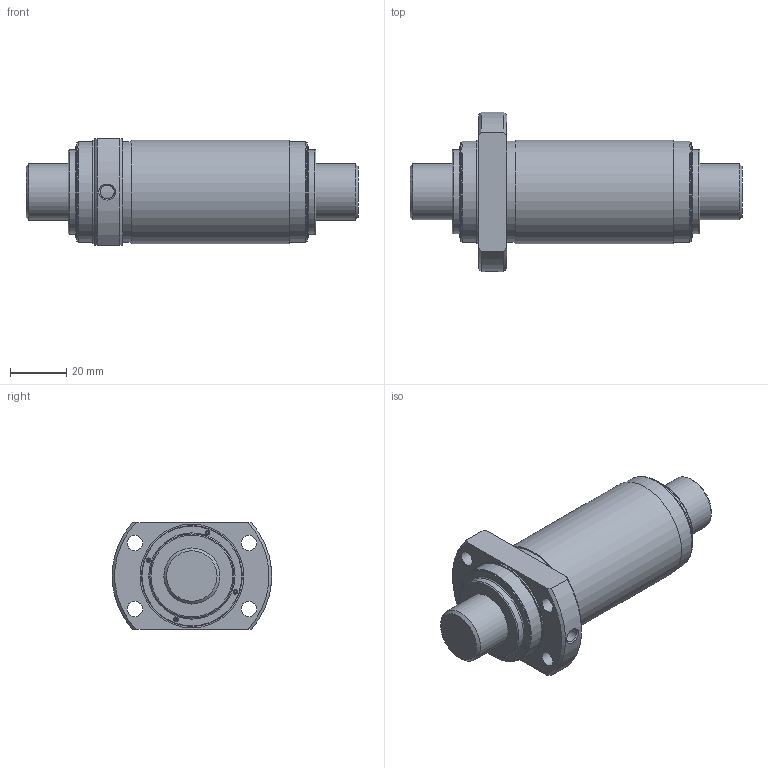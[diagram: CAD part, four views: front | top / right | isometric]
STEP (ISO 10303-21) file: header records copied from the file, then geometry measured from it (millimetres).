
FILE_DESCRIPTION(/* description */ ('STEP AP203'),/* implementation_level */ '2;1');
FILE_NAME(/* name */ 'WTF2040-3ZZ+118.5LC7T_000_rev',/* time_stamp */ '2025-06-11T06:39:50+02:00',/* author */ ('License CC BY-ND 4.0'),/* organization */ ('CADENAS'),/* preprocessor_version */ 'ST-DEVELOPER v19.3',/* originating_system */ 'PARTsolutions',/* authorisation */ ' ');
FILE_SCHEMA (('CONFIG_CONTROL_DESIGN'));
Length unit declared in the file: millimetre
Products named in the file (3): WTF2040-3ZZ+118.5LC7T_000_rev; WTF2040-30ZZ0 Shaft; WTF2040-3ZZ Nut
Assembly tree (2 placements, depth 2):
  WTF2040-3ZZ+118.5LC7T_000_rev
    WTF2040-30ZZ0 Shaft
    WTF2040-3ZZ Nut
Bounding box: 118.5 x 56.91 x 38 mm (x, y, z)
Volume: 109142.3 mm3; surface area: 28230.8 mm2
Topology: 2 solids, 2 shells, 204 faces, 513 edges, 336 vertices
Faces by surface type: plane 125, cylinder 58, torus 12, cone 9
Full cylindrical faces by diameter (mm): 1.6 x8, 4.917 x1, 5.5 x4, 20 x2, 30 x2, 35.6 x2, 36 x3, 37 x2
Entity records: 5995 total; most frequent: CARTESIAN_POINT 1057, DIRECTION 1008, ORIENTED_EDGE 942, EDGE_CURVE 471, AXIS2_PLACEMENT_3D 340, VERTEX_POINT 335, LINE 328, VECTOR 328
